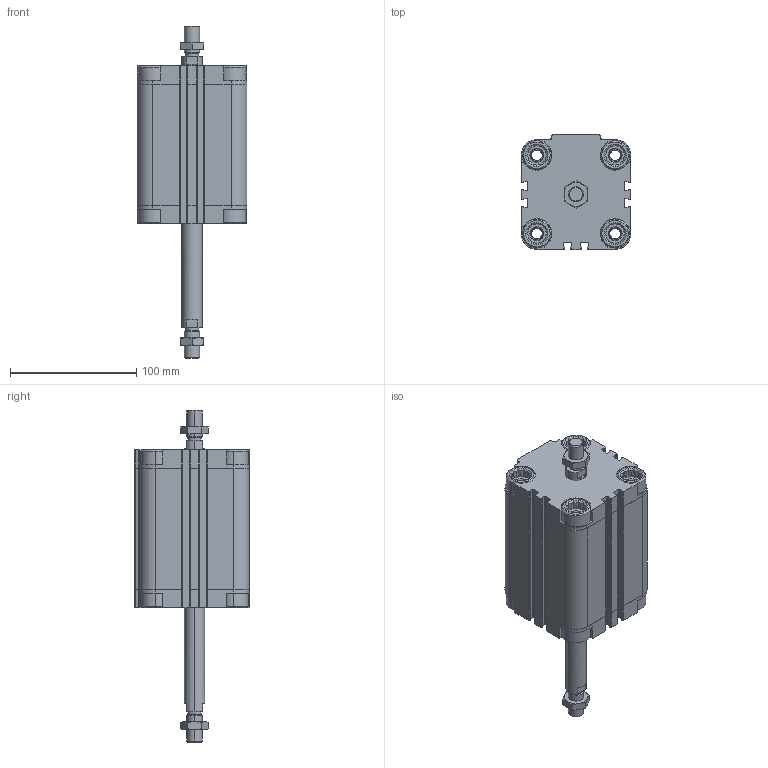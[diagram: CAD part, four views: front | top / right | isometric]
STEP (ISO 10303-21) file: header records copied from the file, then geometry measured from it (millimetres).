
FILE_DESCRIPTION (( 'STEP AP203' ), '1' );
FILE_NAME ('CDVU63-75M-P.STEP', '2020-07-21T15:22:02', ( '' ), ( '' ), 'SwSTEP 2.0', 'SolidWorks 2019', '' );
FILE_SCHEMA (( 'CONFIG_CONTROL_DESIGN' ));
Length unit declared in the file: millimetre
Products named in the file (1): CDVU63-75M-P
Bounding box: 87 x 91 x 263 mm (x, y, z)
Volume: 645453.3 mm3; surface area: 141634.1 mm2
Topology: 4 solids, 4 shells, 658 faces, 1744 edges, 1138 vertices
Faces by surface type: plane 386, cylinder 192, cone 80
Entity records: 21255 total; most frequent: CARTESIAN_POINT 4809, ORIENTED_EDGE 3480, DIRECTION 3322, EDGE_CURVE 1740, AXIS2_PLACEMENT_3D 1139, VERTEX_POINT 1138, VECTOR 1044, LINE 1044
